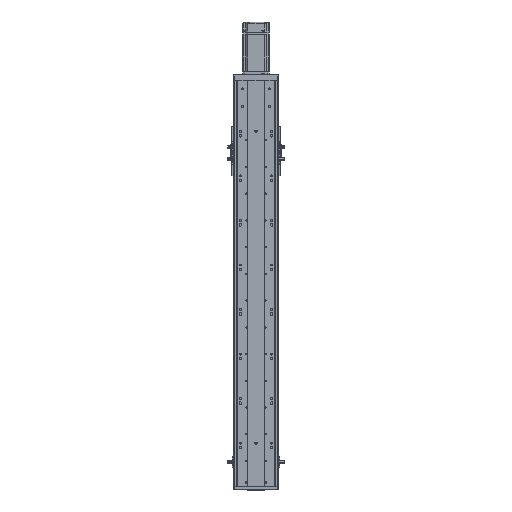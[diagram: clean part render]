
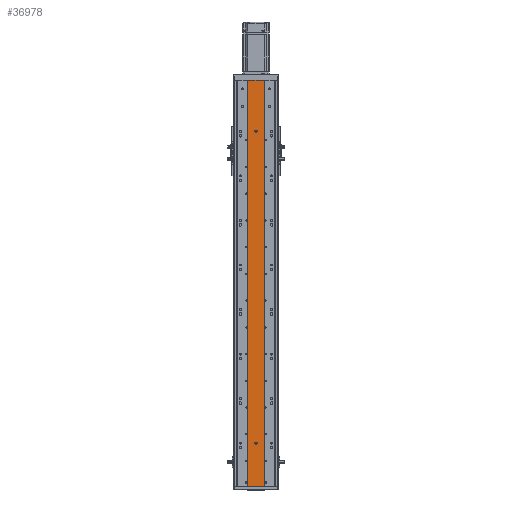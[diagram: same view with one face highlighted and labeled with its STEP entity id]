
A CAD part, top view. The second image highlights one B-rep face of the part: STEP entity #36978.
In plain terms, the highlighted planar face has unit normal (0, 0, 1).
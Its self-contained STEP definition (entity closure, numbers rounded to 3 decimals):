
#3716 = VERTEX_POINT ( 'NONE', #36617 ) ;
#3722 = VERTEX_POINT ( 'NONE', #36599 ) ;
#3740 = VERTEX_POINT ( 'NONE', #36637 ) ;
#3867 = VERTEX_POINT ( 'NONE', #36690 ) ;
#13422 = FACE_OUTER_BOUND ( 'NONE', #19119, .T. ) ;
#13465 = FACE_BOUND ( 'NONE', #19201, .T. ) ;
#13468 = FACE_BOUND ( 'NONE', #19239, .T. ) ;
#13914 = CARTESIAN_POINT ( 'NONE',  ( -10645.079, 0., -17040.86 ) ) ;
#13923 = DIRECTION ( 'NONE',  ( 1., 0., 0. ) ) ;
#13930 = CARTESIAN_POINT ( 'NONE',  ( -10645.079, 912., -17040.86 ) ) ;
#13957 = DIRECTION ( 'NONE',  ( 0., -1., 0. ) ) ;
#13974 = DIRECTION ( 'NONE',  ( -1., 0., 0. ) ) ;
#13979 = CARTESIAN_POINT ( 'NONE',  ( -10626.079, 797., -17040.86 ) ) ;
#13998 = DIRECTION ( 'NONE',  ( 0., 0., -1. ) ) ;
#14013 = CARTESIAN_POINT ( 'NONE',  ( -10626.079, 97., -17040.86 ) ) ;
#14014 = DIRECTION ( 'NONE',  ( -1., 0., 0. ) ) ;
#14027 = DIRECTION ( 'NONE',  ( 0., 0., -1. ) ) ;
#14041 = CARTESIAN_POINT ( 'NONE',  ( -10645.079, 912., -17040.86 ) ) ;
#14068 = DIRECTION ( 'NONE',  ( 1., 0., 0. ) ) ;
#14113 = CARTESIAN_POINT ( 'NONE',  ( -10607.079, 912., -17040.86 ) ) ;
#14117 = DIRECTION ( 'NONE',  ( 0., -1., 0. ) ) ;
#18500 = LINE ( 'NONE', #13914, #18501 ) ;
#18501 = VECTOR ( 'NONE', #13923, 1000. ) ;
#18535 = VECTOR ( 'NONE', #13957, 1000. ) ;
#18551 = LINE ( 'NONE', #13930, #18535 ) ;
#18561 = CIRCLE ( 'NONE', #44597, 2.5 ) ;
#18578 = LINE ( 'NONE', #14041, #18601 ) ;
#18601 = VECTOR ( 'NONE', #14068, 1000. ) ;
#18604 = CIRCLE ( 'NONE', #44600, 2.5 ) ;
#18631 = LINE ( 'NONE', #14113, #18647 ) ;
#18647 = VECTOR ( 'NONE', #14117, 1000. ) ;
#19119 = EDGE_LOOP ( 'NONE', ( #21386, #21368, #21406, #21404 ) ) ;
#19201 = EDGE_LOOP ( 'NONE', ( #21377, #21299 ) ) ;
#19239 = EDGE_LOOP ( 'NONE', ( #21381, #21402 ) ) ;
#21299 = ORIENTED_EDGE ( 'NONE', *, *, #34252, .T. ) ;
#21368 = ORIENTED_EDGE ( 'NONE', *, *, #34380, .F. ) ;
#21377 = ORIENTED_EDGE ( 'NONE', *, *, #42163, .T. ) ;
#21381 = ORIENTED_EDGE ( 'NONE', *, *, #42121, .T. ) ;
#21386 = ORIENTED_EDGE ( 'NONE', *, *, #34202, .T. ) ;
#21402 = ORIENTED_EDGE ( 'NONE', *, *, #34280, .T. ) ;
#21404 = ORIENTED_EDGE ( 'NONE', *, *, #34218, .T. ) ;
#21406 = ORIENTED_EDGE ( 'NONE', *, *, #34297, .F. ) ;
#22792 = CARTESIAN_POINT ( 'NONE',  ( -10645.079, 912., -17040.86 ) ) ;
#22808 = DIRECTION ( 'NONE',  ( -1., 0., 0. ) ) ;
#22814 = DIRECTION ( 'NONE',  ( 0., 0., -1. ) ) ;
#22843 = PLANE ( 'NONE',  #28795 ) ;
#27855 = CIRCLE ( 'NONE', #29986, 2.5 ) ;
#27970 = CIRCLE ( 'NONE', #30002, 2.5 ) ;
#28795 = AXIS2_PLACEMENT_3D ( 'NONE', #22792, #22814, #22808 ) ;
#29986 = AXIS2_PLACEMENT_3D ( 'NONE', #31508, #31490, #31504 ) ;
#30002 = AXIS2_PLACEMENT_3D ( 'NONE', #30725, #30737, #30716 ) ;
#30716 = DIRECTION ( 'NONE',  ( -1., 0., 0. ) ) ;
#30725 = CARTESIAN_POINT ( 'NONE',  ( -10626.079, 797., -17040.86 ) ) ;
#30737 = DIRECTION ( 'NONE',  ( 0., 0., -1. ) ) ;
#31490 = DIRECTION ( 'NONE',  ( 0., 0., -1. ) ) ;
#31504 = DIRECTION ( 'NONE',  ( -1., 0., 0. ) ) ;
#31508 = CARTESIAN_POINT ( 'NONE',  ( -10626.079, 97., -17040.86 ) ) ;
#34202 = EDGE_CURVE ( 'NONE', #3716, #3722, #18500, .T. ) ;
#34218 = EDGE_CURVE ( 'NONE', #3867, #3716, #18551, .T. ) ;
#34252 = EDGE_CURVE ( 'NONE', #45892, #45720, #18561, .T. ) ;
#34280 = EDGE_CURVE ( 'NONE', #45821, #45873, #18604, .T. ) ;
#34297 = EDGE_CURVE ( 'NONE', #3867, #3740, #18578, .T. ) ;
#34380 = EDGE_CURVE ( 'NONE', #3740, #3722, #18631, .T. ) ;
#36599 = CARTESIAN_POINT ( 'NONE',  ( -10607.079, 0., -17040.86 ) ) ;
#36617 = CARTESIAN_POINT ( 'NONE',  ( -10645.079, 0., -17040.86 ) ) ;
#36637 = CARTESIAN_POINT ( 'NONE',  ( -10607.079, 912., -17040.86 ) ) ;
#36690 = CARTESIAN_POINT ( 'NONE',  ( -10645.079, 912., -17040.86 ) ) ;
#36978 = ADVANCED_FACE ( 'NONE', ( #13465, #13468, #13422 ), #22843, .F. ) ;
#38396 = CARTESIAN_POINT ( 'NONE',  ( -10623.579, 797., -17040.86 ) ) ;
#38540 = CARTESIAN_POINT ( 'NONE',  ( -10623.579, 97., -17040.86 ) ) ;
#38547 = CARTESIAN_POINT ( 'NONE',  ( -10628.579, 97., -17040.86 ) ) ;
#38638 = CARTESIAN_POINT ( 'NONE',  ( -10628.579, 797., -17040.86 ) ) ;
#42121 = EDGE_CURVE ( 'NONE', #45873, #45821, #27855, .T. ) ;
#42163 = EDGE_CURVE ( 'NONE', #45720, #45892, #27970, .T. ) ;
#44597 = AXIS2_PLACEMENT_3D ( 'NONE', #13979, #13998, #13974 ) ;
#44600 = AXIS2_PLACEMENT_3D ( 'NONE', #14013, #14027, #14014 ) ;
#45720 = VERTEX_POINT ( 'NONE', #38396 ) ;
#45821 = VERTEX_POINT ( 'NONE', #38547 ) ;
#45873 = VERTEX_POINT ( 'NONE', #38540 ) ;
#45892 = VERTEX_POINT ( 'NONE', #38638 ) ;
